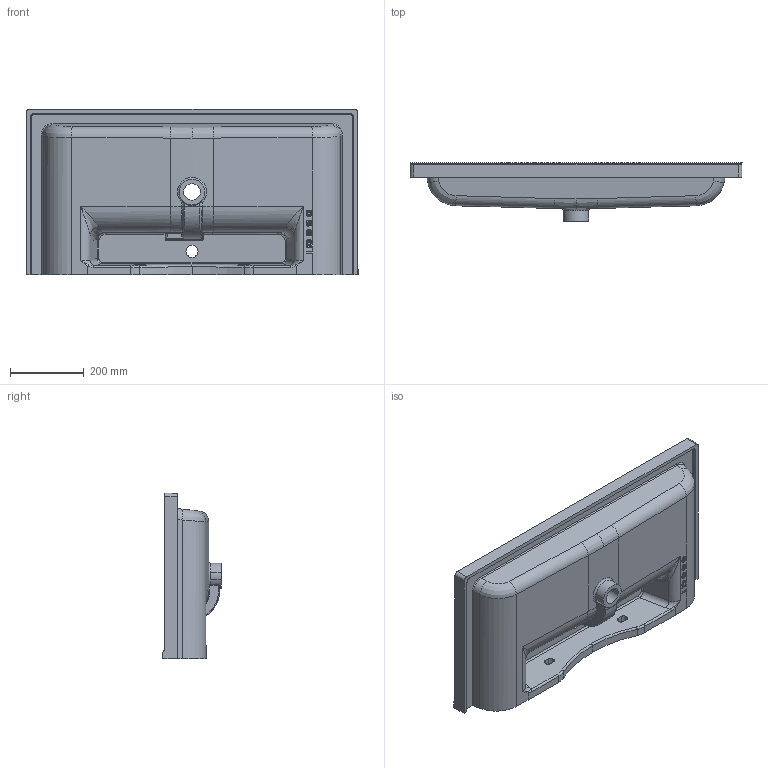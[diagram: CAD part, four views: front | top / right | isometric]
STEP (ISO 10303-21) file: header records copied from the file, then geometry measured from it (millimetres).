
FILE_DESCRIPTION (( 'STEP AP203' ), '1' );
FILE_NAME ('ID090 Taþma Kanallý.STEP', '2022-04-07T11:24:46', ( '' ), ( '' ), 'SwSTEP 2.0', 'SolidWorks 2021', '' );
FILE_SCHEMA (( 'CONFIG_CONTROL_DESIGN' ));
Length unit declared in the file: millimetre
Products named in the file (1): ID090 Taþma Kanallý
Bounding box: 900 x 158.5 x 449.88 mm (x, y, z)
Volume: 16992380.9 mm3; surface area: 1283170.7 mm2
Topology: 2 solids, 2 shells, 359 faces, 932 edges, 570 vertices
Faces by surface type: bspline 153, cylinder 99, plane 80, torus 14, cone 9, sphere 4
Entity records: 29084 total; most frequent: CARTESIAN_POINT 21655, ORIENTED_EDGE 1846, DIRECTION 1133, EDGE_CURVE 923, VERTEX_POINT 569, AXIS2_PLACEMENT_3D 415, EDGE_LOOP 370, ADVANCED_FACE 359
